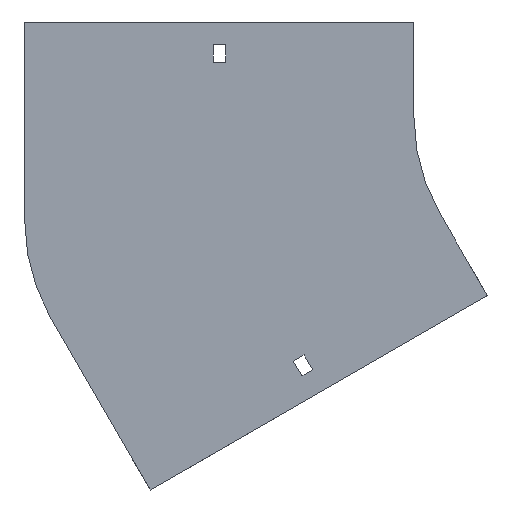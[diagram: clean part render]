
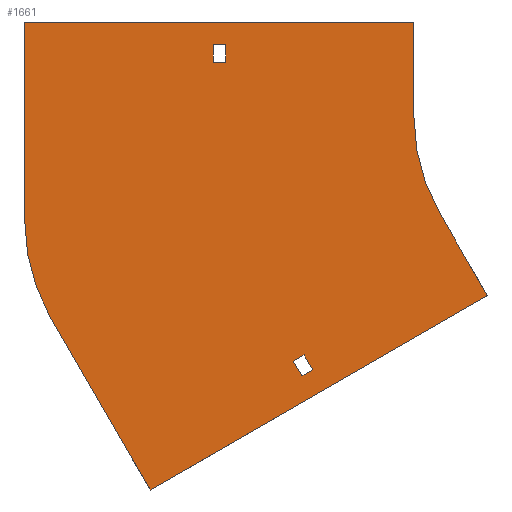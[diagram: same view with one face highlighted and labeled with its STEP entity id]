
A CAD part, front view. The second image highlights one B-rep face of the part: STEP entity #1661.
In plain terms, the highlighted planar face has unit normal (0, -1, 0).
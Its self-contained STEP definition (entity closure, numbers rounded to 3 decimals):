
#45 = VECTOR ( 'NONE', #1182, 1000. ) ;
#55 = CARTESIAN_POINT ( 'NONE',  ( -205.25, 0., 29. ) ) ;
#66 = CIRCLE ( 'NONE', #1095, 100. ) ;
#74 = VERTEX_POINT ( 'NONE', #873 ) ;
#75 = VECTOR ( 'NONE', #688, 1000. ) ;
#87 = LINE ( 'NONE', #211, #75 ) ;
#90 = CARTESIAN_POINT ( 'NONE',  ( -158.752, 0., -135.534 ) ) ;
#93 = EDGE_LOOP ( 'NONE', ( #1531, #1385, #645, #411, #835, #1366, #1490, #1672 ) ) ;
#97 = AXIS2_PLACEMENT_3D ( 'NONE', #822, #1426, #345 ) ;
#121 = CARTESIAN_POINT ( 'NONE',  ( -100., 0., 50. ) ) ;
#126 = CARTESIAN_POINT ( 'NONE',  ( -163.252, 0., -127.74 ) ) ;
#211 = CARTESIAN_POINT ( 'NONE',  ( -163.252, 0., -127.74 ) ) ;
#222 = CARTESIAN_POINT ( 'NONE',  ( -61.603, 0., -93.301 ) ) ;
#233 = EDGE_CURVE ( 'NONE', #1872, #1749, #1398, .T. ) ;
#264 = DIRECTION ( 'NONE',  ( -0.5, 0., 0.866 ) ) ;
#276 = EDGE_CURVE ( 'NONE', #1847, #1226, #849, .T. ) ;
#298 = CARTESIAN_POINT ( 'NONE',  ( -100., 0., 50. ) ) ;
#302 = EDGE_CURVE ( 'NONE', #1640, #1138, #1333, .T. ) ;
#303 = VECTOR ( 'NONE', #370, 1000. ) ;
#329 = CARTESIAN_POINT ( 'NONE',  ( -163.252, 0., -127.74 ) ) ;
#341 = VERTEX_POINT ( 'NONE', #728 ) ;
#345 = DIRECTION ( 'NONE',  ( 0., 0., -1. ) ) ;
#368 = VERTEX_POINT ( 'NONE', #1939 ) ;
#370 = DIRECTION ( 'NONE',  ( -1., 0., 0. ) ) ;
#403 = CARTESIAN_POINT ( 'NONE',  ( -304., 0., 50. ) ) ;
#408 = EDGE_CURVE ( 'NONE', #666, #555, #1668, .T. ) ;
#411 = ORIENTED_EDGE ( 'NONE', *, *, #1211, .F. ) ;
#495 = CARTESIAN_POINT ( 'NONE',  ( -304., 0., -54.662 ) ) ;
#499 = DIRECTION ( 'NONE',  ( -0.866, 0., -0.5 ) ) ;
#500 = EDGE_LOOP ( 'NONE', ( #534, #829, #565, #668 ) ) ;
#512 = DIRECTION ( 'NONE',  ( 1., 0., 0. ) ) ;
#523 = EDGE_CURVE ( 'NONE', #555, #1477, #87, .T. ) ;
#531 = VERTEX_POINT ( 'NONE', #222 ) ;
#534 = ORIENTED_EDGE ( 'NONE', *, *, #915, .T. ) ;
#536 = FACE_OUTER_BOUND ( 'NONE', #93, .T. ) ;
#539 = CARTESIAN_POINT ( 'NONE',  ( -198.75, 0., 29. ) ) ;
#555 = VERTEX_POINT ( 'NONE', #126 ) ;
#565 = ORIENTED_EDGE ( 'NONE', *, *, #936, .T. ) ;
#589 = VECTOR ( 'NONE', #1916, 1000. ) ;
#606 = VECTOR ( 'NONE', #812, 1000. ) ;
#615 = LINE ( 'NONE', #1055, #1466 ) ;
#628 = EDGE_LOOP ( 'NONE', ( #1880, #639, #818, #1727 ) ) ;
#638 = VECTOR ( 'NONE', #1218, 1000. ) ;
#639 = ORIENTED_EDGE ( 'NONE', *, *, #523, .F. ) ;
#645 = ORIENTED_EDGE ( 'NONE', *, *, #671, .F. ) ;
#666 = VERTEX_POINT ( 'NONE', #1362 ) ;
#668 = ORIENTED_EDGE ( 'NONE', *, *, #233, .T. ) ;
#671 = EDGE_CURVE ( 'NONE', #341, #1640, #66, .T. ) ;
#676 = CARTESIAN_POINT ( 'NONE',  ( -100., 0., 0. ) ) ;
#688 = DIRECTION ( 'NONE',  ( 0.5, 0., -0.866 ) ) ;
#690 = DIRECTION ( 'NONE',  ( 0.866, 0., 0.5 ) ) ;
#728 = CARTESIAN_POINT ( 'NONE',  ( -290.603, 0., -104.662 ) ) ;
#779 = AXIS2_PLACEMENT_3D ( 'NONE', #855, #1062, #1463 ) ;
#812 = DIRECTION ( 'NONE',  ( 0., 0., -1. ) ) ;
#818 = ORIENTED_EDGE ( 'NONE', *, *, #408, .F. ) ;
#822 = CARTESIAN_POINT ( 'NONE',  ( 0., 0., 0. ) ) ;
#829 = ORIENTED_EDGE ( 'NONE', *, *, #1244, .T. ) ;
#835 = ORIENTED_EDGE ( 'NONE', *, *, #844, .F. ) ;
#844 = EDGE_CURVE ( 'NONE', #531, #1509, #1106, .T. ) ;
#849 = LINE ( 'NONE', #121, #45 ) ;
#855 = CARTESIAN_POINT ( 'NONE',  ( 0., 0., 0. ) ) ;
#867 = CARTESIAN_POINT ( 'NONE',  ( -238.272, 0., -195.301 ) ) ;
#871 = LINE ( 'NONE', #1781, #1663 ) ;
#873 = CARTESIAN_POINT ( 'NONE',  ( -205.25, 0., 38. ) ) ;
#884 = CARTESIAN_POINT ( 'NONE',  ( -204., 0., -54.662 ) ) ;
#893 = DIRECTION ( 'NONE',  ( 0., 1., 0. ) ) ;
#904 = CARTESIAN_POINT ( 'NONE',  ( -158.752, 0., -135.534 ) ) ;
#913 = LINE ( 'NONE', #1521, #1319 ) ;
#915 = EDGE_CURVE ( 'NONE', #1749, #74, #1752, .T. ) ;
#918 = LINE ( 'NONE', #1512, #638 ) ;
#935 = VECTOR ( 'NONE', #1400, 1000. ) ;
#936 = EDGE_CURVE ( 'NONE', #368, #1872, #988, .T. ) ;
#978 = LINE ( 'NONE', #90, #1066 ) ;
#988 = LINE ( 'NONE', #539, #606 ) ;
#1055 = CARTESIAN_POINT ( 'NONE',  ( -86.603, 0., -50. ) ) ;
#1062 = DIRECTION ( 'NONE',  ( 0., -1., 0. ) ) ;
#1066 = VECTOR ( 'NONE', #690, 1000. ) ;
#1089 = VERTEX_POINT ( 'NONE', #1329 ) ;
#1095 = AXIS2_PLACEMENT_3D ( 'NONE', #884, #893, #1323 ) ;
#1106 = LINE ( 'NONE', #1712, #935 ) ;
#1124 = PLANE ( 'NONE',  #97 ) ;
#1126 = EDGE_CURVE ( 'NONE', #1089, #666, #871, .T. ) ;
#1138 = VERTEX_POINT ( 'NONE', #403 ) ;
#1150 = EDGE_CURVE ( 'NONE', #1477, #1089, #978, .T. ) ;
#1182 = DIRECTION ( 'NONE',  ( 0., 0., -1. ) ) ;
#1211 = EDGE_CURVE ( 'NONE', #1509, #341, #913, .T. ) ;
#1218 = DIRECTION ( 'NONE',  ( 1., 0., 0. ) ) ;
#1222 = CARTESIAN_POINT ( 'NONE',  ( -86.603, 0., -50. ) ) ;
#1226 = VERTEX_POINT ( 'NONE', #676 ) ;
#1237 = LINE ( 'NONE', #1554, #1699 ) ;
#1242 = DIRECTION ( 'NONE',  ( 0.5, 0., -0.866 ) ) ;
#1244 = EDGE_CURVE ( 'NONE', #74, #368, #1237, .T. ) ;
#1251 = FACE_BOUND ( 'NONE', #628, .T. ) ;
#1278 = DIRECTION ( 'NONE',  ( 0., 0., 1. ) ) ;
#1319 = VECTOR ( 'NONE', #1703, 1000. ) ;
#1323 = DIRECTION ( 'NONE',  ( 0., 0., 1. ) ) ;
#1329 = CARTESIAN_POINT ( 'NONE',  ( -153.123, 0., -132.284 ) ) ;
#1333 = LINE ( 'NONE', #1456, #589 ) ;
#1362 = CARTESIAN_POINT ( 'NONE',  ( -157.623, 0., -124.49 ) ) ;
#1366 = ORIENTED_EDGE ( 'NONE', *, *, #1865, .F. ) ;
#1385 = ORIENTED_EDGE ( 'NONE', *, *, #302, .F. ) ;
#1398 = LINE ( 'NONE', #55, #303 ) ;
#1400 = DIRECTION ( 'NONE',  ( -0.866, 0., -0.5 ) ) ;
#1426 = DIRECTION ( 'NONE',  ( 0., -1., 0. ) ) ;
#1456 = CARTESIAN_POINT ( 'NONE',  ( -304., 0., -54.662 ) ) ;
#1463 = DIRECTION ( 'NONE',  ( 0., 0., -1. ) ) ;
#1466 = VECTOR ( 'NONE', #1242, 1000. ) ;
#1472 = EDGE_CURVE ( 'NONE', #1226, #1918, #1869, .T. ) ;
#1477 = VERTEX_POINT ( 'NONE', #904 ) ;
#1490 = ORIENTED_EDGE ( 'NONE', *, *, #1472, .F. ) ;
#1509 = VERTEX_POINT ( 'NONE', #867 ) ;
#1512 = CARTESIAN_POINT ( 'NONE',  ( -304., 0., 50. ) ) ;
#1515 = EDGE_CURVE ( 'NONE', #1138, #1847, #918, .T. ) ;
#1521 = CARTESIAN_POINT ( 'NONE',  ( -238.272, 0., -195.301 ) ) ;
#1531 = ORIENTED_EDGE ( 'NONE', *, *, #1515, .F. ) ;
#1537 = VECTOR ( 'NONE', #1278, 1000. ) ;
#1538 = CARTESIAN_POINT ( 'NONE',  ( -198.75, 0., 29. ) ) ;
#1554 = CARTESIAN_POINT ( 'NONE',  ( -205.25, 0., 38. ) ) ;
#1640 = VERTEX_POINT ( 'NONE', #495 ) ;
#1661 = ADVANCED_FACE ( 'NONE', ( #1882, #536, #1251 ), #1124, .T. ) ;
#1663 = VECTOR ( 'NONE', #264, 1000. ) ;
#1668 = LINE ( 'NONE', #329, #1839 ) ;
#1672 = ORIENTED_EDGE ( 'NONE', *, *, #276, .F. ) ;
#1699 = VECTOR ( 'NONE', #512, 1000. ) ;
#1703 = DIRECTION ( 'NONE',  ( -0.5, 0., 0.866 ) ) ;
#1712 = CARTESIAN_POINT ( 'NONE',  ( -61.603, 0., -93.301 ) ) ;
#1727 = ORIENTED_EDGE ( 'NONE', *, *, #1126, .F. ) ;
#1749 = VERTEX_POINT ( 'NONE', #1928 ) ;
#1752 = LINE ( 'NONE', #1756, #1537 ) ;
#1756 = CARTESIAN_POINT ( 'NONE',  ( -205.25, 0., 29. ) ) ;
#1781 = CARTESIAN_POINT ( 'NONE',  ( -157.623, 0., -124.49 ) ) ;
#1839 = VECTOR ( 'NONE', #499, 1000. ) ;
#1847 = VERTEX_POINT ( 'NONE', #298 ) ;
#1865 = EDGE_CURVE ( 'NONE', #1918, #531, #615, .T. ) ;
#1869 = CIRCLE ( 'NONE', #779, 100. ) ;
#1872 = VERTEX_POINT ( 'NONE', #1538 ) ;
#1880 = ORIENTED_EDGE ( 'NONE', *, *, #1150, .F. ) ;
#1882 = FACE_BOUND ( 'NONE', #500, .T. ) ;
#1916 = DIRECTION ( 'NONE',  ( 0., 0., 1. ) ) ;
#1918 = VERTEX_POINT ( 'NONE', #1222 ) ;
#1928 = CARTESIAN_POINT ( 'NONE',  ( -205.25, 0., 29. ) ) ;
#1939 = CARTESIAN_POINT ( 'NONE',  ( -198.75, 0., 38. ) ) ;
